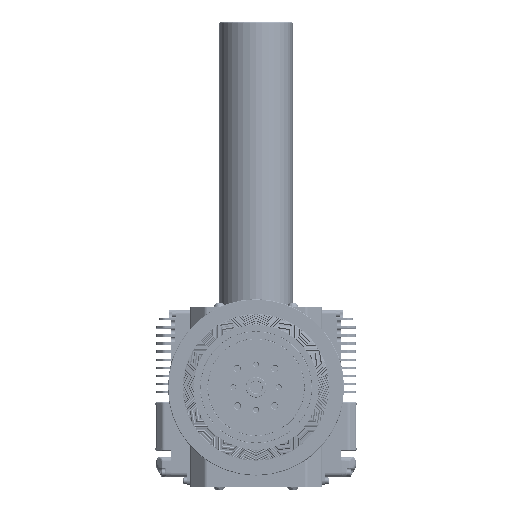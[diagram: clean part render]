
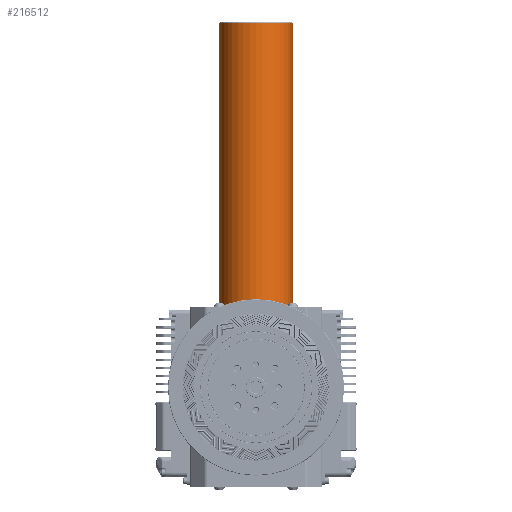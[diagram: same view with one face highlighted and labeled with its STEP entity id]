
A CAD part, top view. The second image highlights one B-rep face of the part: STEP entity #216512.
In plain terms, the highlighted cylindrical face has radius 25 mm (diameter 50 mm), a partial arc.
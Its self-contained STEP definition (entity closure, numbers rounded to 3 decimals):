
#42102 = CIRCLE ( 'NONE', #144957, 25. ) ;
#55782 = VERTEX_POINT ( 'NONE', #425944 ) ;
#59229 = CIRCLE ( 'NONE', #419123, 25. ) ;
#91844 = EDGE_CURVE ( 'NONE', #425962, #55782, #449994, .T. ) ;
#103515 = CARTESIAN_POINT ( 'NONE',  ( 0., 315.5, 0. ) ) ;
#110621 = ORIENTED_EDGE ( 'NONE', *, *, #246516, .T. ) ;
#144957 = AXIS2_PLACEMENT_3D ( 'NONE', #166082, #170616, #382125 ) ;
#151587 = CARTESIAN_POINT ( 'NONE',  ( -25., 120.5, 0. ) ) ;
#163465 = FACE_OUTER_BOUND ( 'NONE', #363753, .T. ) ;
#165918 = VERTEX_POINT ( 'NONE', #405304 ) ;
#166082 = CARTESIAN_POINT ( 'NONE',  ( 0., 120.5, 0. ) ) ;
#170616 = DIRECTION ( 'NONE',  ( 0., -1., 0. ) ) ;
#183989 = DIRECTION ( 'NONE',  ( 0., -1., 0. ) ) ;
#206350 = CARTESIAN_POINT ( 'NONE',  ( 25., 315., 0. ) ) ;
#216512 = ADVANCED_FACE ( 'NONE', ( #163465 ), #230240, .T. ) ;
#230240 = CYLINDRICAL_SURFACE ( 'NONE', #401784, 25. ) ;
#239358 = ORIENTED_EDGE ( 'NONE', *, *, #91844, .F. ) ;
#243774 = DIRECTION ( 'NONE',  ( 0., -1., 0. ) ) ;
#246516 = EDGE_CURVE ( 'NONE', #165918, #384022, #354161, .T. ) ;
#248385 = CARTESIAN_POINT ( 'NONE',  ( -25., 315.5, 0. ) ) ;
#249373 = CARTESIAN_POINT ( 'NONE',  ( 25., 315.5, 0. ) ) ;
#250495 = DIRECTION ( 'NONE',  ( -1., 0., 0. ) ) ;
#254957 = DIRECTION ( 'NONE',  ( 0., -1., 0. ) ) ;
#263400 = VECTOR ( 'NONE', #447730, 1000. ) ;
#277866 = VECTOR ( 'NONE', #183989, 1000. ) ;
#281086 = EDGE_CURVE ( 'NONE', #55782, #384022, #42102, .T. ) ;
#344950 = CARTESIAN_POINT ( 'NONE',  ( 0., 315., 0. ) ) ;
#345443 = ORIENTED_EDGE ( 'NONE', *, *, #356690, .T. ) ;
#354161 = LINE ( 'NONE', #248385, #277866 ) ;
#356690 = EDGE_CURVE ( 'NONE', #425962, #165918, #59229, .T. ) ;
#359435 = ORIENTED_EDGE ( 'NONE', *, *, #281086, .F. ) ;
#363753 = EDGE_LOOP ( 'NONE', ( #345443, #110621, #359435, #239358 ) ) ;
#382125 = DIRECTION ( 'NONE',  ( 0., 0., 1. ) ) ;
#384022 = VERTEX_POINT ( 'NONE', #151587 ) ;
#401784 = AXIS2_PLACEMENT_3D ( 'NONE', #103515, #243774, #413995 ) ;
#405304 = CARTESIAN_POINT ( 'NONE',  ( -25., 315., 0. ) ) ;
#413995 = DIRECTION ( 'NONE',  ( 1., 0., 0. ) ) ;
#419123 = AXIS2_PLACEMENT_3D ( 'NONE', #344950, #254957, #250495 ) ;
#425944 = CARTESIAN_POINT ( 'NONE',  ( 25., 120.5, 0. ) ) ;
#425962 = VERTEX_POINT ( 'NONE', #206350 ) ;
#447730 = DIRECTION ( 'NONE',  ( 0., -1., 0. ) ) ;
#449994 = LINE ( 'NONE', #249373, #263400 ) ;
